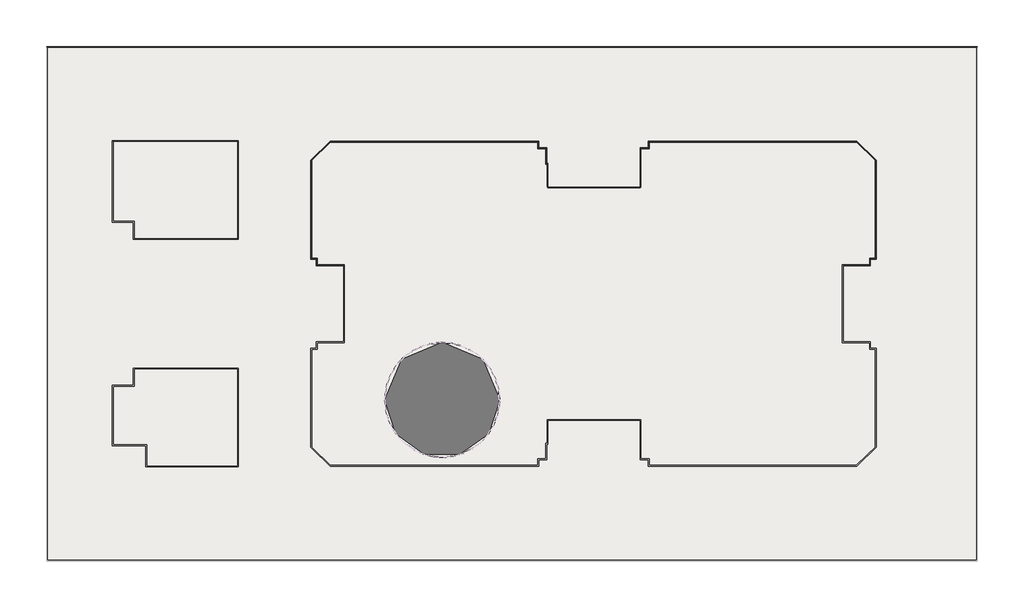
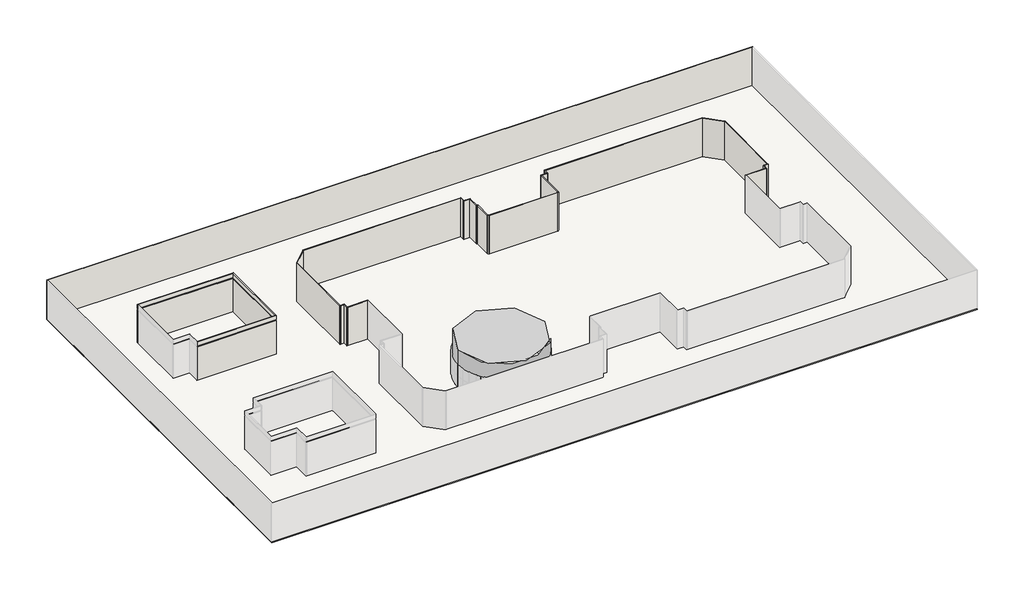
# One storey, part 4 of 4: 27 walls, 1 proxy, 1 slab.
"""IFC4 building model written with IfcOpenShell, lengths in millimetres."""

import ifcopenshell
import ifcopenshell.guid

model = None  # the IFC model being written
_history = None  # IfcOwnerHistory: only IFC2X3 demands one
_inside = {}  # id of a spatial element -> (the spatial element, [elements in it])
_under = {}  # id of a project, library or spatial element -> (it, [spatial elements below it])
_declared = {}  # id of a project -> (the project, [libraries it declares])
_typed = {}  # id of a type object -> (the type object, [elements of that type])
_made_of = {}  # id of a material, layer set ... -> (it, [elements and type objects made of it])


def new_model(schema):
    """Start an empty IFC model of exactly this schema.

    Asked for "IFC4X3", IfcOpenShell would pick the latest addendum, in which some entities
    have other attributes; the version numbers below select the first issue.
    IFC2X3 requires an IfcOwnerHistory on every rooted entity: one is made here for all.
    """
    global model, _history
    if schema == "IFC4X3":
        model = ifcopenshell.file(schema_version=(4, 3, 0, 0))
    else:
        model = ifcopenshell.file(schema=schema)
    _inside.clear()
    _under.clear()
    _declared.clear()
    _typed.clear()
    _made_of.clear()
    _history = None
    if model.schema == "IFC2X3":
        org = make("IfcOrganization", Name="unknown")
        user = make(
            "IfcPersonAndOrganization",
            ThePerson=make("IfcPerson", FamilyName="unknown"),
            TheOrganization=org,
        )
        app = make(
            "IfcApplication",
            ApplicationDeveloper=org,
            Version="unknown",
            ApplicationFullName="unknown",
            ApplicationIdentifier="unknown",
        )
        _history = make(
            "IfcOwnerHistory",
            OwningUser=user,
            OwningApplication=app,
            ChangeAction="ADDED",
            CreationDate=0,
        )
    return model


def make(cls, **values):
    """One entity of the class cls with the attributes given. An attribute that is None is left unset."""
    return model.create_entity(
        cls, **{name: value for name, value in values.items() if value is not None}
    )


def rooted(cls, **values):
    """An entity with a GlobalId (a new one), such as an element, a storey or a relation."""
    return make(cls, GlobalId=ifcopenshell.guid.new(), OwnerHistory=_history, **values)


def si_unit(unit_type, name, prefix=None):
    """IfcSIUnit, for example si_unit("LENGTHUNIT", "METRE", prefix="MILLI")."""
    return make("IfcSIUnit", UnitType=unit_type, Prefix=prefix, Name=name)


def assignment(units):
    """IfcUnitAssignment: the units of a project."""
    return None if units is None else make("IfcUnitAssignment", Units=units)


def point(xyz):
    """IfcCartesianPoint."""
    return None if xyz is None else make("IfcCartesianPoint", Coordinates=xyz)


def direction(xyz):
    """IfcDirection."""
    return None if xyz is None else make("IfcDirection", DirectionRatios=xyz)


def frame(location, z_axis=None, x_axis=None):
    """IfcAxis2Placement3D, a coordinate frame: its origin and axes. An axis left out is left unset."""
    return make(
        "IfcAxis2Placement3D",
        Location=point(location),
        Axis=direction(z_axis),
        RefDirection=direction(x_axis),
    )


def frame_2d(location, x_axis=None):
    """IfcAxis2Placement2D, a coordinate frame in the plane: its origin and x axis."""
    return make(
        "IfcAxis2Placement2D", Location=point(location), RefDirection=direction(x_axis)
    )


def origin():
    """The frame at (0, 0, 0) with its axes left unset."""
    return frame((0.0, 0.0, 0.0))


def origin_with_axes():
    """The frame at (0, 0, 0) with the z axis (0, 0, 1) and the x axis (1, 0, 0) written out."""
    return frame((0.0, 0.0, 0.0), z_axis=(0.0, 0.0, 1.0), x_axis=(1.0, 0.0, 0.0))


def place(relative_to, where):
    """IfcLocalPlacement: puts the frame where relative to a parent placement (None: the world)."""
    return make(
        "IfcLocalPlacement", PlacementRelTo=relative_to, RelativePlacement=where
    )


def context(
    kind, dimensions, precision=None, world=None, true_north=None, identifier=None
):
    """IfcGeometricRepresentationContext, for example the 3D "Model" context."""
    return make(
        "IfcGeometricRepresentationContext",
        ContextIdentifier=identifier,
        ContextType=kind,
        CoordinateSpaceDimension=dimensions,
        Precision=precision,
        WorldCoordinateSystem=world,
        TrueNorth=true_north,
    )


def project(units=None, contexts=None):
    """IfcProject with its units and contexts."""
    return rooted(
        "IfcProject",
        Name="project",
        RepresentationContexts=contexts,
        UnitsInContext=assignment(units),
    )


def spatial(cls, under=None, at=None, **own):
    """A site, building, storey or space (cls), placed at a placement, below another one or the project."""
    s = rooted(cls, ObjectPlacement=at, **own)
    if under is not None:
        _under.setdefault(under.id(), (under, []))[1].append(s)
    return s


def polyline(points):
    """IfcPolyline through the points."""
    return make("IfcPolyline", Points=[point(p) for p in points])


def circle_curve(where, radius):
    """IfcCircle in the frame where."""
    return make("IfcCircle", Position=where, Radius=radius)


def trimmed(basis, trim1, trim2, sense, master):
    """IfcTrimmedCurve: the piece of a basis curve between two trims."""
    return make(
        "IfcTrimmedCurve",
        BasisCurve=basis,
        Trim1=trim1,
        Trim2=trim2,
        SenseAgreement=sense,
        MasterRepresentation=master,
    )


def segment(curve, same_sense, transition):
    """IfcCompositeCurveSegment."""
    return make(
        "IfcCompositeCurveSegment",
        Transition=transition,
        SameSense=same_sense,
        ParentCurve=curve,
    )


def composite_curve(segments, self_intersect=None):
    """IfcCompositeCurve: segments joined end to end."""
    return make("IfcCompositeCurve", Segments=segments, SelfIntersect=self_intersect)


def outline(outer, holes=None, kind="AREA"):
    """IfcArbitraryClosedProfileDef: a profile drawn as a closed curve; with holes, ...WithVoids."""
    if holes is None:
        return make("IfcArbitraryClosedProfileDef", ProfileType=kind, OuterCurve=outer)
    return make(
        "IfcArbitraryProfileDefWithVoids",
        ProfileType=kind,
        OuterCurve=outer,
        InnerCurves=holes,
    )


def extrude(swept, where, along, depth):
    """IfcExtrudedAreaSolid: the profile swept, set in the frame where, extruded along a direction by depth."""
    return make(
        "IfcExtrudedAreaSolid",
        SweptArea=swept,
        Position=where,
        ExtrudedDirection=direction(along),
        Depth=depth,
    )


def faces_of(points, faces, orient=None, outer=None):
    """IfcFace entities. A face is a list of loops; a loop is a list of indices into points, from 0.

    orient and outer hold one flag for each loop. By default every Orientation is true, the
    first loop of a face is its IfcFaceOuterBound and the others are IfcFaceBound.
    """
    made = []
    for i, loops in enumerate(faces):
        bounds = []
        for j, loop in enumerate(loops):
            is_outer = j == 0 if outer is None else outer[i][j]
            bounds.append(
                make(
                    "IfcFaceOuterBound" if is_outer else "IfcFaceBound",
                    Bound=make("IfcPolyLoop", Polygon=[points[k] for k in loop]),
                    Orientation=True if orient is None else orient[i][j],
                )
            )
        made.append(make("IfcFace", Bounds=bounds))
    return made


def faceted_brep(points, faces, orient=None, outer=None, voids=None):
    """IfcFacetedBrep: a solid bounded by flat faces; with voids (closed shells), ...WithVoids."""
    shared = [point(p) for p in points]
    hull = make("IfcClosedShell", CfsFaces=faces_of(shared, faces, orient, outer))
    if voids is None:
        return make("IfcFacetedBrep", Outer=hull)
    return make(
        "IfcFacetedBrepWithVoids",
        Outer=hull,
        Voids=[
            make(cls, CfsFaces=faces_of(shared, fs, o, b)) for cls, fs, o, b in voids
        ],
    )


def shape(context_of_items, identifier, shape_type, items):
    """IfcShapeRepresentation: the items that make up one representation, for example the "Body"."""
    return make(
        "IfcShapeRepresentation",
        ContextOfItems=context_of_items,
        RepresentationIdentifier=identifier,
        RepresentationType=shape_type,
        Items=items,
    )


def made_of(thing, what):
    """Note that an element or type object is made of a material, layer set ...; save() writes the relation."""
    if what is not None:
        _made_of.setdefault(what.id(), (what, []))[1].append(thing)
    return thing


def element(
    cls,
    number,
    at=None,
    inside=None,
    cuts=None,
    type_object=None,
    material=None,
    context=None,
    identifier="Body",
    shape_type=None,
    held_by="IfcProductDefinitionShape",
    body=None,
    shapes=None,
    **own,
):
    """One element of the class cls, such as IfcWall. Its Tag is "e" and its number.

    at: its placement. inside: the storey or other place that contains it. cuts: it is an
    opening in that element (IfcRelVoidsElement). A single representation is given by context,
    identifier, shape_type and body (its items); several are given by shapes. held_by: the class
    of the entity that holds the representations. save() writes the other relations.
    """
    e = rooted(cls, Tag="e%d" % number, ObjectPlacement=at, **own)
    if body is not None:
        shapes = [shape(context, identifier, shape_type, body)]
    if shapes is not None:
        e.Representation = make(held_by, Representations=shapes)
    if inside is not None:
        _inside.setdefault(inside.id(), (inside, []))[1].append(e)
    if cuts is not None:
        rooted(
            "IfcRelVoidsElement", RelatingBuildingElement=cuts, RelatedOpeningElement=e
        )
    if type_object is not None:
        _typed.setdefault(type_object.id(), (type_object, []))[1].append(e)
    return made_of(e, material)


def aggregate(whole, parts):
    """IfcRelAggregates: a whole, such as a stair, and the parts it consists of."""
    return rooted("IfcRelAggregates", RelatingObject=whole, RelatedObjects=parts)


def save(model, path):
    """Write the relations noted so far, then the file.

    IfcRelAggregates (storeys below a building ...), IfcRelContainedInSpatialStructure (elements
    in a storey), IfcRelDefinesByType, IfcRelAssociatesMaterial and IfcRelDeclares: one each for
    every whole, place, type object, material and project.
    """
    for whole, parts in _under.values():
        aggregate(whole, parts)
    for where, things in _inside.values():
        rooted(
            "IfcRelContainedInSpatialStructure",
            RelatedElements=things,
            RelatingStructure=where,
        )
    for kind, things in _typed.values():
        rooted("IfcRelDefinesByType", RelatedObjects=things, RelatingType=kind)
    for what, things in _made_of.values():
        rooted("IfcRelAssociatesMaterial", RelatedObjects=things, RelatingMaterial=what)
    for by, libraries in _declared.values():
        rooted("IfcRelDeclares", RelatingContext=by, RelatedDefinitions=libraries)
    model.write(path)


def plane_surface(at):
    """IfcPlane: the flat surface through the origin of the frame at, square to its z axis."""
    return make("IfcPlane", Position=at)


def cylinder_surface(at, radius):
    """IfcCylindricalSurface: all points at the distance radius from the z axis of the frame at."""
    return make("IfcCylindricalSurface", Position=at, Radius=radius)


def revolved_surface(curve, axis_point, axis_direction):
    """IfcSurfaceOfRevolution: the curve turned about the line through axis_point along axis_direction."""
    return make(
        "IfcSurfaceOfRevolution",
        SweptCurve=make("IfcArbitraryOpenProfileDef", ProfileType="CURVE", Curve=curve),
        AxisPosition=make("IfcAxis1Placement", Location=point(axis_point), Axis=direction(axis_direction)),
    )


def advanced_brep(points, edges, surfaces, faces):
    """IfcAdvancedBrep: a solid bounded by faces that lie on surfaces and meet in shared edges.

    An edge is (start, end): straight between two places in points (the first is 0);
    or (start, end, curve); or (start, end, curve, False) where it runs against its curve.
    A face is (place in surfaces, loops), or (place, loops, False) where it looks against
    its surface's normal. A loop lists edges by number (the first is 1), with a minus sign
    where the edge is run from its end to its start. The first loop is the outer one.
    """
    corners = [point(p) for p in points]
    vertices = [make("IfcVertexPoint", VertexGeometry=c) for c in corners]
    made = []
    for start, end, *more in edges:
        made.append(
            make(
                "IfcEdgeCurve",
                EdgeStart=vertices[start],
                EdgeEnd=vertices[end],
                EdgeGeometry=more[0] if more else make("IfcPolyline", Points=[corners[start], corners[end]]),
                SameSense=more[1] if len(more) > 1 else True,
            )
        )
    hull = []
    for where, loops, *sense in faces:
        bounds = []
        for j, loop in enumerate(loops):
            ring = [make("IfcOrientedEdge", EdgeElement=made[abs(k) - 1], Orientation=k > 0) for k in loop]
            bounds.append(
                make(
                    "IfcFaceOuterBound" if j == 0 else "IfcFaceBound",
                    Bound=make("IfcEdgeLoop", EdgeList=ring),
                    Orientation=True,
                )
            )
        hull.append(make("IfcAdvancedFace", Bounds=bounds, FaceSurface=surfaces[where], SameSense=sense[0] if sense else True))
    return make("IfcAdvancedBrep", Outer=make("IfcClosedShell", CfsFaces=hull))


model = new_model("IFC4")

# Units and contexts
model_context = context("Model", 3, world=origin())
ifc_project = project(units=[si_unit("LENGTHUNIT", "METRE", prefix="MILLI")], contexts=[model_context])

# Site, building, storey
site = spatial("IfcSite", under=ifc_project)
building = spatial("IfcBuilding", under=site)
storey = spatial("IfcBuildingStorey", under=building, Name="樓層 1", Elevation=0.0)

# Proxy
placement = place(None, origin())
element("IfcBuildingElementProxy", 1, Name="量體 1 : 量體 1", ObjectType="量體 1 : 量體 1", at=placement, inside=storey, context=model_context, shape_type="SweptSolid", body=[
    extrude(outline(composite_curve([segment(trimmed(circle_curve(frame_2d((-11700.3710474, -17065.6949502)), 10149.9754917), [point((-21850.3465391, -17065.6949502))], [point((-1550.3955556, -17065.6949502))], False, "CARTESIAN"), True, "CONTINUOUS"), segment(trimmed(circle_curve(frame_2d((-11700.3710474, -17065.6949502)), 10149.9754917), [point((-1550.3955556, -17065.6949502))], [point((-21850.3465391, -17065.6949502))], False, "CARTESIAN"), True, "CONTINUOUS")], self_intersect=False)), origin_with_axes(), (0.0, 0.0, 1.0), 9144.0),
])

# Slab
element("IfcSlab", 2, ObjectType="基板 - 25cm", at=placement, inside=storey, context=model_context, shape_type="SweptSolid", body=[
    extrude(outline(polyline([(83063.7769574, 45477.9067124), (83063.7769574, -45617.0932876), (-81741.2230426, -45617.0932876), (-81741.2230426, 45477.9067124), (83063.7769574, 45477.9067124)])), frame((0.0, 0.0, -250.0), z_axis=(0.0, 0.0, 1.0), x_axis=(1.0, 0.0, 0.0)), (0.0, 0.0, 1.0), 250.0),
])

# Walls
element("IfcWall", 3, ObjectType="RC 牆 15cm", at=placement, inside=storey, context=model_context, shape_type="Brep", body=[
    faceted_brep([(-81741.2230426, 45327.9067124, 0.0), (-81591.2230426, 45327.9067124, 0.0), (82913.7769574, 45327.9067124, 0.0), (83063.7769574, 45327.9067124, 0.0), (83063.7769574, 45327.9067124, 9500.0), (82913.7769574, 45327.9067124, 9500.0), (-81591.2230426, 45327.9067124, 9500.0), (-81741.2230426, 45327.9067124, 9500.0), (-81741.2230426, 45477.9067124, 0.0), (-81741.2230426, 45477.9067124, 9500.0), (83063.7769574, 45477.9067124, 9500.0), (83063.7769574, 45477.9067124, 0.0)], [[[0, 1, 2, 3, 4, 5, 6, 7]], [[8, 9, 10, 11]], [[3, 2, 1, 0, 8, 11]], [[7, 6, 5, 4, 10, 9]], [[4, 3, 11, 10]], [[0, 7, 9, 8]]]),
])
element("IfcWall", 4, ObjectType="RC 牆 15cm", at=placement, inside=storey, context=model_context, shape_type="Brep", body=[
    faceted_brep([(-66206.2230426, 11337.3962872, 0.0), (-47776.2230426, 11337.3962872, 0.0), (-47776.2230426, 11337.3962872, 4250.0), (-47776.2230426, 11337.3962872, 4500.0), (-47776.2230426, 11337.3962872, 8250.0), (-66206.2230426, 11337.3962872, 8250.0), (-66206.2230426, 11337.3962872, 4500.0), (-66206.2230426, 11337.3962872, 4250.0), (-47776.2230426, 11487.3962872, 0.0), (-47926.2230426, 11487.3962872, 0.0), (-66206.2230426, 11487.3962872, 0.0), (-66206.2230426, 11487.3962872, 8250.0), (-47926.2230426, 11487.3962872, 8250.0), (-47776.2230426, 11487.3962872, 8250.0), (-47776.2230426, 11487.3962872, 4500.0), (-47776.2230426, 11487.3962872, 4250.0)], [[[0, 1, 2, 3, 4, 5, 6, 7]], [[8, 9, 10, 11, 12, 13, 14, 15]], [[1, 0, 10, 9, 8]], [[10, 0, 7, 6, 5, 11]], [[1, 8, 15, 14, 13, 4, 3, 2]], [[5, 4, 13, 12, 11]]]),
    faceted_brep([(-47776.2230426, 11337.3962872, 9500.0), (-66206.2230426, 11337.3962872, 9500.0), (-66206.2230426, 11337.3962872, 8500.0), (-47776.2230426, 11337.3962872, 8500.0), (-66206.2230426, 11487.3962872, 9500.0), (-47926.2230426, 11487.3962872, 9500.0), (-47776.2230426, 11487.3962872, 9500.0), (-47776.2230426, 11487.3962872, 8500.0), (-47926.2230426, 11487.3962872, 8500.0), (-66206.2230426, 11487.3962872, 8500.0)], [[[0, 1, 2, 3]], [[4, 5, 6, 7, 8, 9]], [[1, 0, 6, 5, 4]], [[1, 4, 9, 2]], [[6, 0, 3, 7]], [[3, 2, 9, 8, 7]]]),
])
element("IfcWall", 5, ObjectType="RC 牆 15cm", at=placement, inside=storey, context=model_context, shape_type="Brep", body=[
    faceted_brep([(-47776.2230426, 11487.3962872, 0.0), (-47776.2230426, 28827.9067124, 0.0), (-47776.2230426, 28827.9067124, 4250.0), (-47776.2230426, 28827.9067124, 4500.0), (-47776.2230426, 28827.9067124, 8250.0), (-47776.2230426, 11487.3962872, 8250.0), (-47776.2230426, 11487.3962872, 4500.0), (-47776.2230426, 11487.3962872, 4250.0), (-47926.2230426, 28827.9067124, 0.0), (-47926.2230426, 28677.9067124, 0.0), (-47926.2230426, 11487.3962872, 0.0), (-47926.2230426, 11487.3962872, 8250.0), (-47926.2230426, 28677.9067124, 8250.0), (-47926.2230426, 28827.9067124, 8250.0), (-47926.2230426, 28827.9067124, 4500.0), (-47926.2230426, 28827.9067124, 4250.0)], [[[0, 1, 2, 3, 4, 5, 6, 7]], [[8, 9, 10, 11, 12, 13, 14, 15]], [[1, 0, 10, 9, 8]], [[10, 0, 7, 6, 5, 11]], [[1, 8, 15, 14, 13, 4, 3, 2]], [[5, 4, 13, 12, 11]]]),
    faceted_brep([(-47776.2230426, 28827.9067124, 9500.0), (-47776.2230426, 11487.3962872, 9500.0), (-47776.2230426, 11487.3962872, 8500.0), (-47776.2230426, 28827.9067124, 8500.0), (-47926.2230426, 11487.3962872, 9500.0), (-47926.2230426, 28677.9067124, 9500.0), (-47926.2230426, 28827.9067124, 9500.0), (-47926.2230426, 28827.9067124, 8500.0), (-47926.2230426, 28677.9067124, 8500.0), (-47926.2230426, 11487.3962872, 8500.0)], [[[0, 1, 2, 3]], [[4, 5, 6, 7, 8, 9]], [[1, 0, 6, 5, 4]], [[1, 4, 9, 2]], [[6, 0, 3, 7]], [[3, 2, 9, 8, 7]]]),
])
element("IfcWall", 6, ObjectType="RC 牆 15cm", at=placement, inside=storey, context=model_context, shape_type="Brep", body=[
    faceted_brep([(-47926.2230426, 28827.9067124, 0.0), (-70116.2230426, 28827.9067124, 0.0), (-70116.2230426, 28827.9067124, 4250.0), (-70116.2230426, 28827.9067124, 4500.0), (-70116.2230426, 28827.9067124, 8250.0), (-47926.2230426, 28827.9067124, 8250.0), (-47926.2230426, 28827.9067124, 4500.0), (-47926.2230426, 28827.9067124, 4250.0), (-70116.2230426, 28677.9067124, 0.0), (-69966.2230426, 28677.9067124, 0.0), (-47926.2230426, 28677.9067124, 0.0), (-47926.2230426, 28677.9067124, 8250.0), (-69966.2230426, 28677.9067124, 8250.0), (-70116.2230426, 28677.9067124, 8250.0), (-70116.2230426, 28677.9067124, 4500.0), (-70116.2230426, 28677.9067124, 4250.0)], [[[0, 1, 2, 3, 4, 5, 6, 7]], [[8, 9, 10, 11, 12, 13, 14, 15]], [[1, 0, 10, 9, 8]], [[10, 0, 7, 6, 5, 11]], [[1, 8, 15, 14, 13, 4, 3, 2]], [[5, 4, 13, 12, 11]]]),
    faceted_brep([(-70116.2230426, 28827.9067124, 9500.0), (-47926.2230426, 28827.9067124, 9500.0), (-47926.2230426, 28827.9067124, 8500.0), (-70116.2230426, 28827.9067124, 8500.0), (-47926.2230426, 28677.9067124, 9500.0), (-69966.2230426, 28677.9067124, 9500.0), (-70116.2230426, 28677.9067124, 9500.0), (-70116.2230426, 28677.9067124, 8500.0), (-69966.2230426, 28677.9067124, 8500.0), (-47926.2230426, 28677.9067124, 8500.0)], [[[0, 1, 2, 3]], [[4, 5, 6, 7, 8, 9]], [[1, 0, 6, 5, 4]], [[1, 4, 9, 2]], [[6, 0, 3, 7]], [[3, 2, 9, 8, 7]]]),
])
element("IfcWall", 7, ObjectType="RC 牆 15cm", at=placement, inside=storey, context=model_context, shape_type="Brep", body=[
    faceted_brep([(-34956.2230426, 25385.8439255, 0.0), (-34956.2230426, 7852.9067124, 0.0), (-34956.2230426, 7852.9067124, 4250.0), (-34956.2230426, 7852.9067124, 4500.0), (-34956.2230426, 7852.9067124, 8250.0), (-34956.2230426, 7852.9067124, 8500.0), (-34956.2230426, 7852.9067124, 9500.0), (-34956.2230426, 25385.8439255, 9500.0), (-34956.2230426, 25385.8439255, 8500.0), (-34956.2230426, 25385.8439255, 8250.0), (-34956.2230426, 25385.8439255, 4500.0), (-34956.2230426, 25385.8439255, 4250.0), (-34806.2230426, 7852.9067124, 0.0), (-34806.2230426, 8002.9067124, 0.0), (-34806.2230426, 25322.9067124, 0.0), (-34806.2230426, 25533.1248923, 0.0), (-34806.2230426, 25533.1248923, 4250.0), (-34806.2230426, 25533.1248923, 4500.0), (-34806.2230426, 25533.1248923, 8250.0), (-34806.2230426, 25533.1248923, 8500.0), (-34806.2230426, 25533.1248923, 9500.0), (-34806.2230426, 25322.9067124, 9500.0), (-34806.2230426, 8002.9067124, 9500.0), (-34806.2230426, 7852.9067124, 9500.0), (-34806.2230426, 7852.9067124, 8500.0), (-34806.2230426, 7852.9067124, 8250.0), (-34806.2230426, 7852.9067124, 4500.0), (-34806.2230426, 7852.9067124, 4250.0)], [[[0, 1, 2, 3, 4, 5, 6, 7, 8, 9, 10, 11]], [[12, 13, 14, 15, 16, 17, 18, 19, 20, 21, 22, 23, 24, 25, 26, 27]], [[1, 0, 15, 14, 13, 12]], [[7, 6, 23, 22, 21, 20]], [[1, 12, 27, 26, 25, 24, 23, 6, 5, 4, 3, 2]], [[7, 20, 19, 18, 17, 16, 15, 0, 11, 10, 9, 8]]]),
])
element("IfcWall", 8, ObjectType="RC 牆 15cm", at=placement, inside=storey, context=model_context, shape_type="Brep", body=[
    faceted_brep([(-34806.2230426, 7852.9067124, 0.0), (-33976.2230426, 7852.9067124, 0.0), (-33826.2230426, 7852.9067124, 0.0), (-33826.2230426, 7852.9067124, 9500.0), (-33976.2230426, 7852.9067124, 9500.0), (-34806.2230426, 7852.9067124, 9500.0), (-34806.2230426, 7852.9067124, 8500.0), (-34806.2230426, 7852.9067124, 8250.0), (-34806.2230426, 7852.9067124, 4500.0), (-34806.2230426, 7852.9067124, 4250.0), (-33826.2230426, 8002.9067124, 0.0), (-34806.2230426, 8002.9067124, 0.0), (-34806.2230426, 8002.9067124, 9500.0), (-33826.2230426, 8002.9067124, 9500.0)], [[[0, 1, 2, 3, 4, 5, 6, 7, 8, 9]], [[10, 11, 12, 13]], [[2, 1, 0, 11, 10]], [[5, 4, 3, 13, 12]], [[5, 12, 11, 0, 9, 8, 7, 6]], [[3, 2, 10, 13]]]),
])
element("IfcWall", 9, ObjectType="RC 牆 15cm", at=placement, inside=storey, context=model_context, shape_type="Brep", body=[
    faceted_brep([(-33976.2230426, 7852.9067124, 0.0), (-33976.2230426, 6712.9067124, 0.0), (-33976.2230426, 6712.9067124, 4250.0), (-33976.2230426, 6712.9067124, 4500.0), (-33976.2230426, 6712.9067124, 8250.0), (-33976.2230426, 6712.9067124, 8500.0), (-33976.2230426, 6712.9067124, 9500.0), (-33976.2230426, 7852.9067124, 9500.0), (-33976.2230426, 7852.9067124, 8500.0), (-33976.2230426, 7852.9067124, 8250.0), (-33976.2230426, 7852.9067124, 4500.0), (-33976.2230426, 7852.9067124, 4250.0), (-33826.2230426, 6712.9067124, 0.0), (-33826.2230426, 6862.9067124, 0.0), (-33826.2230426, 7852.9067124, 0.0), (-33826.2230426, 7852.9067124, 9500.0), (-33826.2230426, 6862.9067124, 9500.0), (-33826.2230426, 6712.9067124, 9500.0), (-33826.2230426, 6712.9067124, 8500.0), (-33826.2230426, 6712.9067124, 8250.0), (-33826.2230426, 6712.9067124, 4500.0), (-33826.2230426, 6712.9067124, 4250.0)], [[[0, 1, 2, 3, 4, 5, 6, 7, 8, 9, 10, 11]], [[12, 13, 14, 15, 16, 17, 18, 19, 20, 21]], [[1, 0, 14, 13, 12]], [[7, 6, 17, 16, 15]], [[7, 15, 14, 0, 11, 10, 9, 8]], [[1, 12, 21, 20, 19, 18, 17, 6, 5, 4, 3, 2]]]),
])
element("IfcWall", 10, ObjectType="RC 牆 15cm", at=placement, inside=storey, context=model_context, shape_type="Brep", body=[
    faceted_brep([(-33826.2230426, 6712.9067124, 0.0), (-29151.2230426, 6712.9067124, 0.0), (-29001.2230426, 6712.9067124, 0.0), (-29001.2230426, 6712.9067124, 9500.0), (-29151.2230426, 6712.9067124, 9500.0), (-33826.2230426, 6712.9067124, 9500.0), (-33826.2230426, 6712.9067124, 8500.0), (-33826.2230426, 6712.9067124, 8250.0), (-33826.2230426, 6712.9067124, 4500.0), (-33826.2230426, 6712.9067124, 4250.0), (-29001.2230426, 6862.9067124, 0.0), (-33826.2230426, 6862.9067124, 0.0), (-33826.2230426, 6862.9067124, 9500.0), (-29001.2230426, 6862.9067124, 9500.0)], [[[0, 1, 2, 3, 4, 5, 6, 7, 8, 9]], [[10, 11, 12, 13]], [[2, 1, 0, 11, 10]], [[5, 4, 3, 13, 12]], [[5, 12, 11, 0, 9, 8, 7, 6]], [[3, 2, 10, 13]]]),
])
element("IfcWall", 11, ObjectType="RC 牆 15cm", at=placement, inside=storey, context=model_context, shape_type="Brep", body=[
    faceted_brep([(64123.7769574, 6712.9067124, 0.0), (64123.7769574, 7852.9067124, 0.0), (64123.7769574, 8002.9067124, 0.0), (64123.7769574, 8002.9067124, 9500.0), (64123.7769574, 7852.9067124, 9500.0), (64123.7769574, 6712.9067124, 9500.0), (64123.7769574, 6712.9067124, 8500.0), (64123.7769574, 6712.9067124, 8250.0), (64123.7769574, 6712.9067124, 4500.0), (64123.7769574, 6712.9067124, 4250.0), (63973.7769574, 8002.9067124, 0.0), (63973.7769574, 6862.9067124, 0.0), (63973.7769574, 6712.9067124, 0.0), (63973.7769574, 6712.9067124, 4250.0), (63973.7769574, 6712.9067124, 4500.0), (63973.7769574, 6712.9067124, 8250.0), (63973.7769574, 6712.9067124, 8500.0), (63973.7769574, 6712.9067124, 9500.0), (63973.7769574, 6862.9067124, 9500.0), (63973.7769574, 8002.9067124, 9500.0)], [[[0, 1, 2, 3, 4, 5, 6, 7, 8, 9]], [[10, 11, 12, 13, 14, 15, 16, 17, 18, 19]], [[2, 1, 0, 12, 11, 10]], [[5, 4, 3, 19, 18, 17]], [[3, 2, 10, 19]], [[5, 17, 16, 15, 14, 13, 12, 0, 9, 8, 7, 6]]]),
])
element("IfcWall", 12, ObjectType="RC 牆 15cm", at=placement, inside=storey, context=model_context, shape_type="Brep", body=[
    faceted_brep([(64123.7769574, 7852.9067124, 0.0), (65103.7769574, 7852.9067124, 0.0), (65103.7769574, 7852.9067124, 4250.0), (65103.7769574, 7852.9067124, 4500.0), (65103.7769574, 7852.9067124, 8250.0), (65103.7769574, 7852.9067124, 8500.0), (65103.7769574, 7852.9067124, 9500.0), (64123.7769574, 7852.9067124, 9500.0), (64123.7769574, 7852.9067124, 8500.0), (64123.7769574, 7852.9067124, 8250.0), (64123.7769574, 7852.9067124, 4500.0), (64123.7769574, 7852.9067124, 4250.0), (65103.7769574, 8002.9067124, 0.0), (64953.7769574, 8002.9067124, 0.0), (64123.7769574, 8002.9067124, 0.0), (64123.7769574, 8002.9067124, 9500.0), (64953.7769574, 8002.9067124, 9500.0), (65103.7769574, 8002.9067124, 9500.0), (65103.7769574, 8002.9067124, 8500.0), (65103.7769574, 8002.9067124, 8250.0), (65103.7769574, 8002.9067124, 4500.0), (65103.7769574, 8002.9067124, 4250.0)], [[[0, 1, 2, 3, 4, 5, 6, 7, 8, 9, 10, 11]], [[12, 13, 14, 15, 16, 17, 18, 19, 20, 21]], [[1, 0, 14, 13, 12]], [[7, 6, 17, 16, 15]], [[7, 15, 14, 0, 11, 10, 9, 8]], [[1, 12, 21, 20, 19, 18, 17, 6, 5, 4, 3, 2]]]),
])
element("IfcWall", 13, ObjectType="RC 牆 15cm", at=placement, inside=storey, context=model_context, shape_type="Brep", body=[
    faceted_brep([(65103.7769574, 8002.9067124, 0.0), (65103.7769574, 25385.8439255, 0.0), (65103.7769574, 25385.8439255, 4250.0), (65103.7769574, 25385.8439255, 4500.0), (65103.7769574, 25385.8439255, 8250.0), (65103.7769574, 25385.8439255, 8500.0), (65103.7769574, 25385.8439255, 9500.0), (65103.7769574, 8002.9067124, 9500.0), (65103.7769574, 8002.9067124, 8500.0), (65103.7769574, 8002.9067124, 8250.0), (65103.7769574, 8002.9067124, 4500.0), (65103.7769574, 8002.9067124, 4250.0), (64953.7769574, 25533.1248923, 0.0), (64953.7769574, 25322.9067124, 0.0), (64953.7769574, 8002.9067124, 0.0), (64953.7769574, 8002.9067124, 9500.0), (64953.7769574, 25322.9067124, 9500.0), (64953.7769574, 25533.1248923, 9500.0), (64953.7769574, 25533.1248923, 8500.0), (64953.7769574, 25533.1248923, 8250.0), (64953.7769574, 25533.1248923, 4500.0), (64953.7769574, 25533.1248923, 4250.0)], [[[0, 1, 2, 3, 4, 5, 6, 7, 8, 9, 10, 11]], [[12, 13, 14, 15, 16, 17, 18, 19, 20, 21]], [[1, 0, 14, 13, 12]], [[7, 6, 17, 16, 15]], [[7, 15, 14, 0, 11, 10, 9, 8]], [[1, 12, 21, 20, 19, 18, 17, 6, 5, 4, 3, 2]]]),
])
element("IfcWall", 14, ObjectType="RC 牆 15cm", at=placement, inside=storey, context=model_context, shape_type="Brep", body=[
    faceted_brep([(64953.7769574, 25533.1248923, 0.0), (61705.1068576, 28722.9067124, 0.0), (61705.1068576, 28722.9067124, 4250.0), (61705.1068576, 28722.9067124, 4500.0), (61705.1068576, 28722.9067124, 8250.0), (61705.1068576, 28722.9067124, 8500.0), (61705.1068576, 28722.9067124, 9500.0), (64953.7769574, 25533.1248923, 9500.0), (64953.7769574, 25533.1248923, 8500.0), (64953.7769574, 25533.1248923, 8250.0), (64953.7769574, 25533.1248923, 4500.0), (64953.7769574, 25533.1248923, 4250.0), (61491.0077267, 28722.9067124, 0.0), (61643.7769574, 28572.9067124, 0.0), (64953.7769574, 25322.9067124, 0.0), (64953.7769574, 25322.9067124, 9500.0), (61643.7769574, 28572.9067124, 9500.0), (61491.0077267, 28722.9067124, 9500.0), (61491.0077267, 28722.9067124, 8500.0), (61491.0077267, 28722.9067124, 8250.0), (61491.0077267, 28722.9067124, 4500.0), (61491.0077267, 28722.9067124, 4250.0)], [[[0, 1, 2, 3, 4, 5, 6, 7, 8, 9, 10, 11]], [[12, 13, 14, 15, 16, 17, 18, 19, 20, 21]], [[1, 0, 14, 13, 12]], [[7, 6, 17, 16, 15]], [[7, 15, 14, 0, 11, 10, 9, 8]], [[1, 12, 21, 20, 19, 18, 17, 6, 5, 4, 3, 2]]]),
])
element("IfcWall", 15, ObjectType="RC 牆 15cm", at=placement, inside=storey, context=model_context, shape_type="Brep", body=[
    faceted_brep([(61491.0077267, 28722.9067124, 0.0), (24773.7769574, 28722.9067124, 0.0), (24773.7769574, 28722.9067124, 4250.0), (24773.7769574, 28722.9067124, 4500.0), (24773.7769574, 28722.9067124, 8250.0), (24773.7769574, 28722.9067124, 8500.0), (24773.7769574, 28722.9067124, 9500.0), (61491.0077267, 28722.9067124, 9500.0), (61491.0077267, 28722.9067124, 8500.0), (61491.0077267, 28722.9067124, 8250.0), (61491.0077267, 28722.9067124, 4500.0), (61491.0077267, 28722.9067124, 4250.0), (24773.7769574, 28572.9067124, 0.0), (24923.7769574, 28572.9067124, 0.0), (61643.7769574, 28572.9067124, 0.0), (61643.7769574, 28572.9067124, 9500.0), (24923.7769574, 28572.9067124, 9500.0), (24773.7769574, 28572.9067124, 9500.0), (24773.7769574, 28572.9067124, 8500.0), (24773.7769574, 28572.9067124, 8250.0), (24773.7769574, 28572.9067124, 4500.0), (24773.7769574, 28572.9067124, 4250.0)], [[[0, 1, 2, 3, 4, 5, 6, 7, 8, 9, 10, 11]], [[12, 13, 14, 15, 16, 17, 18, 19, 20, 21]], [[1, 0, 14, 13, 12]], [[7, 6, 17, 16, 15]], [[7, 15, 14, 0, 11, 10, 9, 8]], [[1, 12, 21, 20, 19, 18, 17, 6, 5, 4, 3, 2]]]),
])
element("IfcWall", 16, ObjectType="RC 牆 15cm", at=placement, inside=storey, context=model_context, shape_type="Brep", body=[
    faceted_brep([(24773.7769574, 28572.9067124, 0.0), (24773.7769574, 27570.4067124, 0.0), (24773.7769574, 27420.4067124, 0.0), (24773.7769574, 27420.4067124, 9500.0), (24773.7769574, 27570.4067124, 9500.0), (24773.7769574, 28572.9067124, 9500.0), (24773.7769574, 28572.9067124, 8500.0), (24773.7769574, 28572.9067124, 8250.0), (24773.7769574, 28572.9067124, 4500.0), (24773.7769574, 28572.9067124, 4250.0), (24923.7769574, 27420.4067124, 0.0), (24923.7769574, 28572.9067124, 0.0), (24923.7769574, 28572.9067124, 9500.0), (24923.7769574, 27420.4067124, 9500.0)], [[[0, 1, 2, 3, 4, 5, 6, 7, 8, 9]], [[10, 11, 12, 13]], [[2, 1, 0, 11, 10]], [[5, 4, 3, 13, 12]], [[5, 12, 11, 0, 9, 8, 7, 6]], [[3, 2, 10, 13]]]),
])
element("IfcWall", 17, ObjectType="RC 牆 15cm", at=placement, inside=storey, context=model_context, shape_type="Brep", body=[
    faceted_brep([(24773.7769574, 27570.4067124, 0.0), (23333.7769574, 27570.4067124, 0.0), (23333.7769574, 27570.4067124, 4250.0), (23333.7769574, 27570.4067124, 4500.0), (23333.7769574, 27570.4067124, 8250.0), (23333.7769574, 27570.4067124, 8500.0), (23333.7769574, 27570.4067124, 9500.0), (24773.7769574, 27570.4067124, 9500.0), (24773.7769574, 27570.4067124, 8500.0), (24773.7769574, 27570.4067124, 8250.0), (24773.7769574, 27570.4067124, 4500.0), (24773.7769574, 27570.4067124, 4250.0), (23333.7769574, 27420.4067124, 0.0), (23483.7769574, 27420.4067124, 0.0), (24773.7769574, 27420.4067124, 0.0), (24773.7769574, 27420.4067124, 9500.0), (23483.7769574, 27420.4067124, 9500.0), (23333.7769574, 27420.4067124, 9500.0), (23333.7769574, 27420.4067124, 8500.0), (23333.7769574, 27420.4067124, 8250.0), (23333.7769574, 27420.4067124, 4500.0), (23333.7769574, 27420.4067124, 4250.0)], [[[0, 1, 2, 3, 4, 5, 6, 7, 8, 9, 10, 11]], [[12, 13, 14, 15, 16, 17, 18, 19, 20, 21]], [[1, 0, 14, 13, 12]], [[7, 6, 17, 16, 15]], [[7, 15, 14, 0, 11, 10, 9, 8]], [[1, 12, 21, 20, 19, 18, 17, 6, 5, 4, 3, 2]]]),
])
element("IfcWall", 18, ObjectType="RC 牆 15cm", at=placement, inside=storey, context=model_context, shape_type="Brep", body=[
    faceted_brep([(23333.7769574, 27420.4067124, 0.0), (23333.7769574, 20677.9067124, 0.0), (23333.7769574, 20677.9067124, 4250.0), (23333.7769574, 20677.9067124, 4500.0), (23333.7769574, 20677.9067124, 8250.0), (23333.7769574, 20677.9067124, 8500.0), (23333.7769574, 20677.9067124, 9500.0), (23333.7769574, 27420.4067124, 9500.0), (23333.7769574, 27420.4067124, 8500.0), (23333.7769574, 27420.4067124, 8250.0), (23333.7769574, 27420.4067124, 4500.0), (23333.7769574, 27420.4067124, 4250.0), (23483.7769574, 20677.9067124, 0.0), (23483.7769574, 27420.4067124, 0.0), (23483.7769574, 27420.4067124, 9500.0), (23483.7769574, 20677.9067124, 9500.0)], [[[0, 1, 2, 3, 4, 5, 6, 7, 8, 9, 10, 11]], [[12, 13, 14, 15]], [[1, 0, 13, 12]], [[12, 15, 6, 5, 4, 3, 2, 1]], [[7, 6, 15, 14]], [[7, 14, 13, 0, 11, 10, 9, 8]]]),
])
element("IfcWall", 19, ObjectType="RC 牆 15cm", at=placement, inside=storey, context=model_context, shape_type="AdvancedBrep", body=[
    advanced_brep(
    [(23243.7769574, 20437.9067124, 9500.0), (23483.7769574, 20677.9067124, 9500.0), (23333.7769574, 20677.9067124, 9500.0), (23243.7769574, 20587.9067124, 9500.0), (23483.7769574, 20677.9067124, 0.0), (23243.7769574, 20437.9067124, 0.0), (23243.7769574, 20587.9067124, 0.0), (23333.7769574, 20677.9067124, 0.0), (23333.7769574, 20677.9067124, 4250.0), (23333.7769574, 20677.9067124, 4500.0), (23333.7769574, 20677.9067124, 8250.0), (23333.7769574, 20677.9067124, 8500.0), (23243.7769574, 20587.9067124, 4250.0), (23243.7769574, 20587.9067124, 4500.0), (23243.7769574, 20587.9067124, 8250.0), (23243.7769574, 20587.9067124, 8500.0)],
    [
        (0, 1, circle_curve(frame((23243.7769574, 20677.9067124, 9500.0), z_axis=(0.0, 0.0, 1.0), x_axis=(1.0, 0.0, 0.0)), 240.0)),
        (1, 2),
        (2, 3, circle_curve(frame((23243.7769574, 20677.9067124, 9500.0), z_axis=(0.0, 0.0, -1.0), x_axis=(1.0, 0.0, 0.0)), 90.0)),
        (3, 0),
        (4, 5, circle_curve(frame((23243.7769574, 20677.9067124, 0.0), z_axis=(0.0, 0.0, -1.0), x_axis=(1.0, 0.0, 0.0)), 240.0)),
        (5, 6),
        (6, 7, circle_curve(frame((23243.7769574, 20677.9067124, 0.0), z_axis=(0.0, 0.0, 1.0), x_axis=(1.0, 0.0, 0.0)), 90.0)),
        (7, 4),
        (0, 5),
        (4, 1),
        (7, 8),
        (8, 9),
        (9, 10),
        (10, 11),
        (11, 2),
        (6, 12),
        (12, 13),
        (13, 14),
        (14, 15),
        (15, 3),
    ],
    [
        plane_surface(frame((23483.7769574, 20677.9067124, 9500.0), z_axis=(0.0, 0.0, 1.0), x_axis=(0.0, 1.0, 0.0))),
        plane_surface(frame((23483.7769574, 20677.9067124, 0.0), z_axis=(0.0, 0.0, -1.0), x_axis=(0.0, -1.0, 0.0))),
        cylinder_surface(frame((23243.7769574, 20677.9067124, 0.0), z_axis=(0.0, 0.0, 1.0), x_axis=(1.0, 0.0, 0.0)), 240.0),
        plane_surface(frame((23483.7769574, 20677.9067124, 9500.0), z_axis=(0.0, 1.0, 0.0), x_axis=(0.0, 0.0, -1.0))),
        revolved_surface(polyline([(23333.7769574, 20677.9067124, 0.0), (23333.7769574, 20677.9067124, 9500.0)]), (23243.7769574, 20677.9067124, 0.0), (0.0, 0.0, -1.0)),
        plane_surface(frame((23243.7769574, 20587.9067124, 9500.0), z_axis=(-1.0, 0.0, 0.0), x_axis=(0.0, 0.0, -1.0))),
    ],
    [
        (0, [[1, 2, 3, 4]]),
        (1, [[5, 6, 7, 8]]),
        (2, [[-1, 9, -5, 10]]),
        (3, [[-2, -10, -8, 11, 12, 13, 14, 15]]),
        (4, [[-3, -15, -14, -13, -12, -11, -7, 16, 17, 18, 19, 20]]),
        (5, [[-4, -20, -19, -18, -17, -16, -6, -9]]),
    ],
),
])
element("IfcWall", 20, ObjectType="RC 牆 15cm", at=placement, inside=storey, context=model_context, shape_type="Brep", body=[
    faceted_brep([(23243.7769574, 20587.9067124, 0.0), (7128.4112757, 20587.9067124, 0.0), (7128.4112757, 20587.9067124, 4250.0), (7128.4112757, 20587.9067124, 4500.0), (7128.4112757, 20587.9067124, 8250.0), (7128.4112757, 20587.9067124, 8500.0), (7128.4112757, 20587.9067124, 9500.0), (23243.7769574, 20587.9067124, 9500.0), (23243.7769574, 20587.9067124, 8500.0), (23243.7769574, 20587.9067124, 8250.0), (23243.7769574, 20587.9067124, 4500.0), (23243.7769574, 20587.9067124, 4250.0), (7143.7769574, 20437.9067124, 0.0), (23243.7769574, 20437.9067124, 0.0), (23243.7769574, 20437.9067124, 9500.0), (7143.7769574, 20437.9067124, 9500.0)], [[[0, 1, 2, 3, 4, 5, 6, 7, 8, 9, 10, 11]], [[12, 13, 14, 15]], [[1, 0, 13, 12]], [[7, 6, 15, 14]], [[14, 13, 0, 11, 10, 9, 8, 7]], [[1, 12, 15, 6, 5, 4, 3, 2]]]),
])
element("IfcWall", 21, ObjectType="RC 牆 15cm", at=placement, inside=storey, context=model_context, shape_type="AdvancedBrep", body=[
    advanced_brep(
    [(6863.7769574, 20637.9067124, 9500.0), (7143.7769574, 20437.9067124, 9500.0), (7128.4112757, 20587.9067124, 9500.0), (7013.7769574, 20653.2723941, 9500.0), (7143.7769574, 20437.9067124, 0.0), (6863.7769574, 20637.9067124, 0.0), (7013.7769574, 20653.2723941, 0.0), (7128.4112757, 20587.9067124, 0.0), (7128.4112757, 20587.9067124, 8500.0), (7128.4112757, 20587.9067124, 8250.0), (7128.4112757, 20587.9067124, 4500.0), (7128.4112757, 20587.9067124, 4250.0), (7013.7769574, 20653.2723941, 4250.0), (7013.7769574, 20653.2723941, 4500.0), (7013.7769574, 20653.2723941, 8250.0), (7013.7769574, 20653.2723941, 8500.0)],
    [
        (0, 1, circle_curve(frame((7103.7769574, 20677.9067124, 9500.0), z_axis=(0.0, 0.0, 1.0), x_axis=(1.0, 0.0, 0.0)), 243.3105012)),
        (1, 2),
        (2, 3, circle_curve(frame((7103.7769574, 20677.9067124, 9500.0), z_axis=(0.0, 0.0, -1.0), x_axis=(1.0, 0.0, 0.0)), 93.3105012)),
        (3, 0),
        (4, 5, circle_curve(frame((7103.7769574, 20677.9067124, 0.0), z_axis=(0.0, 0.0, -1.0), x_axis=(1.0, 0.0, 0.0)), 243.3105012)),
        (5, 6),
        (6, 7, circle_curve(frame((7103.7769574, 20677.9067124, 0.0), z_axis=(0.0, 0.0, 1.0), x_axis=(1.0, 0.0, 0.0)), 93.3105012)),
        (7, 4),
        (0, 5),
        (4, 1),
        (2, 8),
        (8, 9),
        (9, 10),
        (10, 11),
        (11, 7),
        (6, 12),
        (12, 13),
        (13, 14),
        (14, 15),
        (15, 3),
    ],
    [
        plane_surface(frame((7347.0874587, 20677.9067124, 9500.0), z_axis=(0.0, 0.0, 1.0), x_axis=(0.0, 1.0, 0.0))),
        plane_surface(frame((7347.0874587, 20677.9067124, 0.0), z_axis=(0.0, 0.0, -1.0), x_axis=(0.0, -1.0, 0.0))),
        cylinder_surface(frame((7103.7769574, 20677.9067124, 0.0), z_axis=(0.0, 0.0, 1.0), x_axis=(1.0, 0.0, 0.0)), 243.3105012),
        revolved_surface(polyline([(7197.0874586, 20677.9067124, 0.0), (7197.0874586, 20677.9067124, 9500.0)]), (7103.7769574, 20677.9067124, 0.0), (0.0, 0.0, -1.0)),
        plane_surface(frame((7143.7769574, 20437.9067124, 0.0), z_axis=(0.9947941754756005, 0.10190460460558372, 0.0), x_axis=(-0.10190460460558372, 0.9947941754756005, 0.0))),
        plane_surface(frame((7013.7769574, 20653.2723941, 0.0), z_axis=(-0.10190460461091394, 0.9947941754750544, 0.0), x_axis=(-0.9947941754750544, -0.10190460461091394, 0.0))),
    ],
    [
        (0, [[1, 2, 3, 4]]),
        (1, [[5, 6, 7, 8]]),
        (2, [[-1, 9, -5, 10]]),
        (3, [[-3, 11, 12, 13, 14, 15, -7, 16, 17, 18, 19, 20]]),
        (4, [[-2, -10, -8, -15, -14, -13, -12, -11]]),
        (5, [[-4, -20, -19, -18, -17, -16, -6, -9]]),
    ],
),
])
element("IfcWall", 22, ObjectType="RC 牆 15cm", at=placement, inside=storey, context=model_context, shape_type="Brep", body=[
    faceted_brep([(7013.7769574, 20653.2723941, 0.0), (7013.7769574, 24667.9067124, 0.0), (7013.7769574, 24667.9067124, 4250.0), (7013.7769574, 24667.9067124, 4500.0), (7013.7769574, 24667.9067124, 8250.0), (7013.7769574, 24667.9067124, 8500.0), (7013.7769574, 24667.9067124, 9500.0), (7013.7769574, 20653.2723941, 9500.0), (7013.7769574, 20653.2723941, 8500.0), (7013.7769574, 20653.2723941, 8250.0), (7013.7769574, 20653.2723941, 4500.0), (7013.7769574, 20653.2723941, 4250.0), (6863.7769574, 24667.9067124, 0.0), (6863.7769574, 20637.9067124, 0.0), (6863.7769574, 20637.9067124, 9500.0), (6863.7769574, 24667.9067124, 9500.0)], [[[0, 1, 2, 3, 4, 5, 6, 7, 8, 9, 10, 11]], [[12, 13, 14, 15]], [[1, 0, 13, 12]], [[7, 6, 15, 14]], [[7, 14, 13, 0, 11, 10, 9, 8]], [[1, 12, 15, 6, 5, 4, 3, 2]]]),
])
element("IfcWall", 23, ObjectType="RC 牆 15cm", at=placement, inside=storey, context=model_context, shape_type="Brep", body=[
    faceted_brep([(6813.7769574, 27570.4067124, 0.0), (5373.7769574, 27570.4067124, 0.0), (5223.7769574, 27570.4067124, 0.0), (5223.7769574, 27570.4067124, 9500.0), (5373.7769574, 27570.4067124, 9500.0), (6813.7769574, 27570.4067124, 9500.0), (6813.7769574, 27570.4067124, 8500.0), (6813.7769574, 27570.4067124, 8250.0), (6813.7769574, 27570.4067124, 4500.0), (6813.7769574, 27570.4067124, 4250.0), (5223.7769574, 27420.4067124, 0.0), (6663.7769574, 27420.4067124, 0.0), (6813.7769574, 27420.4067124, 0.0), (6813.7769574, 27420.4067124, 4250.0), (6813.7769574, 27420.4067124, 4500.0), (6813.7769574, 27420.4067124, 8250.0), (6813.7769574, 27420.4067124, 8500.0), (6813.7769574, 27420.4067124, 9500.0), (6663.7769574, 27420.4067124, 9500.0), (5223.7769574, 27420.4067124, 9500.0)], [[[0, 1, 2, 3, 4, 5, 6, 7, 8, 9]], [[10, 11, 12, 13, 14, 15, 16, 17, 18, 19]], [[2, 1, 0, 12, 11, 10]], [[5, 4, 3, 19, 18, 17]], [[3, 2, 10, 19]], [[5, 17, 16, 15, 14, 13, 12, 0, 9, 8, 7, 6]]]),
])
element("IfcWall", 24, ObjectType="RC 牆 15cm", at=placement, inside=storey, context=model_context, shape_type="Brep", body=[
    faceted_brep([(5373.7769574, 27570.4067124, 0.0), (5373.7769574, 28722.9067124, 0.0), (5373.7769574, 28722.9067124, 4250.0), (5373.7769574, 28722.9067124, 4500.0), (5373.7769574, 28722.9067124, 8250.0), (5373.7769574, 28722.9067124, 8500.0), (5373.7769574, 28722.9067124, 9500.0), (5373.7769574, 27570.4067124, 9500.0), (5373.7769574, 27570.4067124, 8500.0), (5373.7769574, 27570.4067124, 8250.0), (5373.7769574, 27570.4067124, 4500.0), (5373.7769574, 27570.4067124, 4250.0), (5223.7769574, 28722.9067124, 0.0), (5223.7769574, 28572.9067124, 0.0), (5223.7769574, 27570.4067124, 0.0), (5223.7769574, 27570.4067124, 9500.0), (5223.7769574, 28572.9067124, 9500.0), (5223.7769574, 28722.9067124, 9500.0), (5223.7769574, 28722.9067124, 8500.0), (5223.7769574, 28722.9067124, 8250.0), (5223.7769574, 28722.9067124, 4500.0), (5223.7769574, 28722.9067124, 4250.0)], [[[0, 1, 2, 3, 4, 5, 6, 7, 8, 9, 10, 11]], [[12, 13, 14, 15, 16, 17, 18, 19, 20, 21]], [[1, 0, 14, 13, 12]], [[7, 6, 17, 16, 15]], [[7, 15, 14, 0, 11, 10, 9, 8]], [[1, 12, 21, 20, 19, 18, 17, 6, 5, 4, 3, 2]]]),
])
element("IfcWall", 25, ObjectType="RC 牆 15cm", at=placement, inside=storey, context=model_context, shape_type="Brep", body=[
    faceted_brep([(5223.7769574, 28722.9067124, 0.0), (-31557.5529427, 28722.9067124, 0.0), (-31557.5529427, 28722.9067124, 4250.0), (-31557.5529427, 28722.9067124, 4500.0), (-31557.5529427, 28722.9067124, 8250.0), (-31557.5529427, 28722.9067124, 8500.0), (-31557.5529427, 28722.9067124, 9500.0), (5223.7769574, 28722.9067124, 9500.0), (5223.7769574, 28722.9067124, 8500.0), (5223.7769574, 28722.9067124, 8250.0), (5223.7769574, 28722.9067124, 4500.0), (5223.7769574, 28722.9067124, 4250.0), (-31710.3221735, 28572.9067124, 0.0), (-31496.2230426, 28572.9067124, 0.0), (5223.7769574, 28572.9067124, 0.0), (5223.7769574, 28572.9067124, 9500.0), (-31496.2230426, 28572.9067124, 9500.0), (-31710.3221735, 28572.9067124, 9500.0), (-31710.3221735, 28572.9067124, 8500.0), (-31710.3221735, 28572.9067124, 8250.0), (-31710.3221735, 28572.9067124, 4500.0), (-31710.3221735, 28572.9067124, 4250.0)], [[[0, 1, 2, 3, 4, 5, 6, 7, 8, 9, 10, 11]], [[12, 13, 14, 15, 16, 17, 18, 19, 20, 21]], [[1, 0, 14, 13, 12]], [[7, 6, 17, 16, 15]], [[7, 15, 14, 0, 11, 10, 9, 8]], [[1, 12, 21, 20, 19, 18, 17, 6, 5, 4, 3, 2]]]),
])
element("IfcWall", 26, ObjectType="RC 牆 15cm", at=placement, inside=storey, context=model_context, shape_type="Brep", body=[
    faceted_brep([(-31710.3221735, 28572.9067124, 0.0), (-34806.2230426, 25533.1248923, 0.0), (-34806.2230426, 25533.1248923, 4250.0), (-34806.2230426, 25533.1248923, 4500.0), (-34806.2230426, 25533.1248923, 8250.0), (-34806.2230426, 25533.1248923, 8500.0), (-34806.2230426, 25533.1248923, 9500.0), (-31710.3221735, 28572.9067124, 9500.0), (-31710.3221735, 28572.9067124, 8500.0), (-31710.3221735, 28572.9067124, 8250.0), (-31710.3221735, 28572.9067124, 4500.0), (-31710.3221735, 28572.9067124, 4250.0), (-34806.2230426, 25322.9067124, 0.0), (-31496.2230426, 28572.9067124, 0.0), (-31496.2230426, 28572.9067124, 9500.0), (-34806.2230426, 25322.9067124, 9500.0)], [[[0, 1, 2, 3, 4, 5, 6, 7, 8, 9, 10, 11]], [[12, 13, 14, 15]], [[1, 0, 13, 12]], [[7, 6, 15, 14]], [[7, 14, 13, 0, 11, 10, 9, 8]], [[1, 12, 15, 6, 5, 4, 3, 2]]]),
])
element("IfcWall", 27, ObjectType="RC 牆 15cm", at=placement, inside=storey, context=model_context, shape_type="Brep", body=[
    faceted_brep([(7013.7769574, 24817.9067124, 0.0), (6813.7769574, 24817.9067124, 0.0), (6663.7769574, 24817.9067124, 0.0), (6663.7769574, 24817.9067124, 9500.0), (6813.7769574, 24817.9067124, 9500.0), (7013.7769574, 24817.9067124, 9500.0), (7013.7769574, 24817.9067124, 8500.0), (7013.7769574, 24817.9067124, 8250.0), (7013.7769574, 24817.9067124, 4500.0), (7013.7769574, 24817.9067124, 4250.0), (6663.7769574, 24667.9067124, 0.0), (6863.7769574, 24667.9067124, 0.0), (7013.7769574, 24667.9067124, 0.0), (7013.7769574, 24667.9067124, 4250.0), (7013.7769574, 24667.9067124, 4500.0), (7013.7769574, 24667.9067124, 8250.0), (7013.7769574, 24667.9067124, 8500.0), (7013.7769574, 24667.9067124, 9500.0), (6863.7769574, 24667.9067124, 9500.0), (6663.7769574, 24667.9067124, 9500.0)], [[[0, 1, 2, 3, 4, 5, 6, 7, 8, 9]], [[10, 11, 12, 13, 14, 15, 16, 17, 18, 19]], [[2, 1, 0, 12, 11, 10]], [[5, 4, 3, 19, 18, 17]], [[5, 17, 16, 15, 14, 13, 12, 0, 9, 8, 7, 6]], [[3, 2, 10, 19]]]),
])
element("IfcWall", 28, ObjectType="RC 牆 15cm", at=placement, inside=storey, context=model_context, shape_type="Brep", body=[
    faceted_brep([(6813.7769574, 24817.9067124, 0.0), (6813.7769574, 27420.4067124, 0.0), (6813.7769574, 27420.4067124, 4250.0), (6813.7769574, 27420.4067124, 4500.0), (6813.7769574, 27420.4067124, 8250.0), (6813.7769574, 27420.4067124, 8500.0), (6813.7769574, 27420.4067124, 9500.0), (6813.7769574, 24817.9067124, 9500.0), (6813.7769574, 24817.9067124, 8500.0), (6813.7769574, 24817.9067124, 8250.0), (6813.7769574, 24817.9067124, 4500.0), (6813.7769574, 24817.9067124, 4250.0), (6663.7769574, 27420.4067124, 0.0), (6663.7769574, 24817.9067124, 0.0), (6663.7769574, 24817.9067124, 9500.0), (6663.7769574, 27420.4067124, 9500.0)], [[[0, 1, 2, 3, 4, 5, 6, 7, 8, 9, 10, 11]], [[12, 13, 14, 15]], [[1, 0, 13, 12]], [[7, 6, 15, 14]], [[7, 14, 13, 0, 11, 10, 9, 8]], [[1, 12, 15, 6, 5, 4, 3, 2]]]),
])
element("IfcWall", 29, ObjectType="RC 牆 15cm", at=placement, inside=storey, context=model_context, shape_type="Brep", body=[
    faceted_brep([(59298.7769574, 6712.9067124, 0.0), (63973.7769574, 6712.9067124, 0.0), (63973.7769574, 6712.9067124, 4250.0), (63973.7769574, 6712.9067124, 4500.0), (63973.7769574, 6712.9067124, 8250.0), (63973.7769574, 6712.9067124, 8500.0), (63973.7769574, 6712.9067124, 9500.0), (59298.7769574, 6712.9067124, 9500.0), (59298.7769574, 6712.9067124, 8500.0), (59298.7769574, 6712.9067124, 8250.0), (59298.7769574, 6712.9067124, 4500.0), (59298.7769574, 6712.9067124, 4250.0), (63973.7769574, 6862.9067124, 0.0), (59298.7769574, 6862.9067124, 0.0), (59298.7769574, 6862.9067124, 9500.0), (63973.7769574, 6862.9067124, 9500.0)], [[[0, 1, 2, 3, 4, 5, 6, 7, 8, 9, 10, 11]], [[12, 13, 14, 15]], [[1, 0, 13, 12]], [[7, 6, 15, 14]], [[7, 14, 13, 0, 11, 10, 9, 8]], [[1, 12, 15, 6, 5, 4, 3, 2]]]),
])

save(model, "model.ifc")
